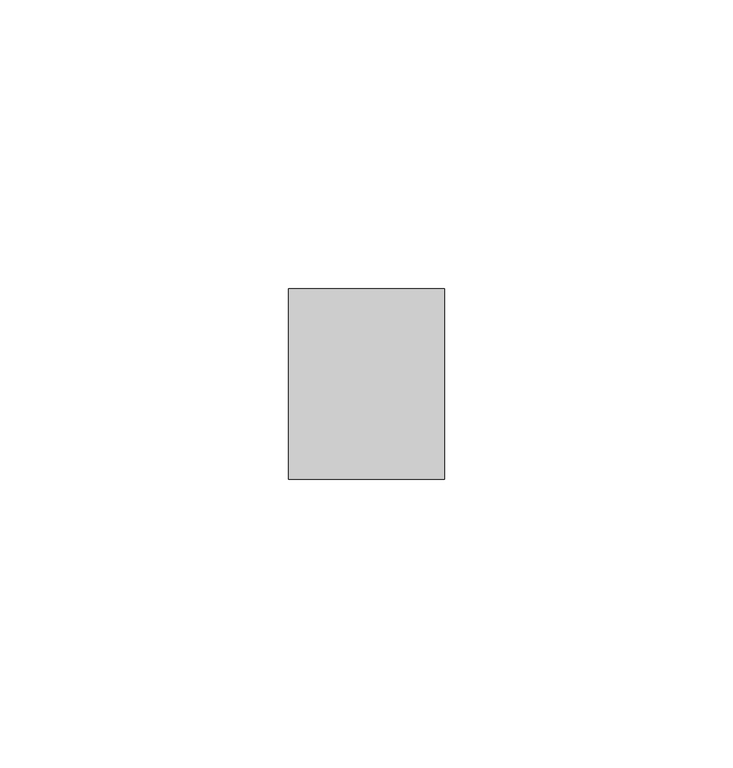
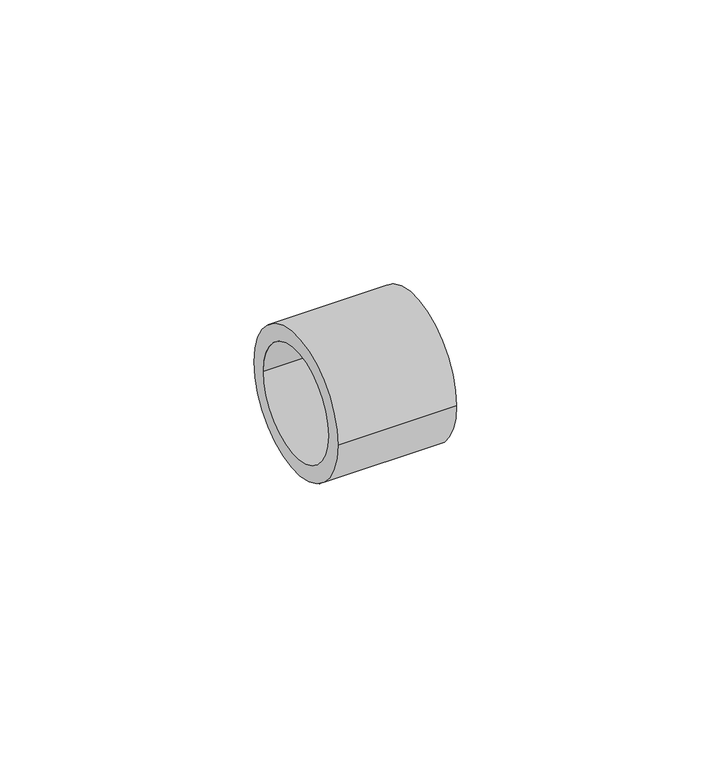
"""IFC4 building model written with IfcOpenShell, lengths in millimetres: pipe fitting geometry, REHAU_RAUTITAN_Sleeve_PX : REHAU_RAUTITAN_Sleeve_PX."""

from ifc_helpers import new_model, si_unit, point, frame, origin, origin_2d, place, context, project, spatial, circle_curve, trimmed, segment, composite_curve, outline, extrude, source, transform, mapped, element, save


def pipe_fitting_6b43a2d7(model_context):
    return source(origin(), model_context, "Body", "SweptSolid", [
        extrude(outline(composite_curve([segment(trimmed(circle_curve(origin_2d(), 16.5), [point((-16.5, 0.0))], [point((16.5, 0.0))], False, "CARTESIAN"), True, "CONTINUOUS"), segment(trimmed(circle_curve(origin_2d(), 16.5), [point((16.5, 0.0))], [point((-16.5, 0.0))], False, "CARTESIAN"), True, "CONTINUOUS")], self_intersect=False), holes=[composite_curve([segment(trimmed(circle_curve(origin_2d(), 12.8), [point((-12.8, 0.0))], [point((12.8, 0.0))], True, "CARTESIAN"), True, "CONTINUOUS"), segment(trimmed(circle_curve(origin_2d(), 12.8), [point((12.8, 0.0))], [point((-12.8, 0.0))], True, "CARTESIAN"), True, "CONTINUOUS")], self_intersect=False)]), frame((0.0, 0.0, 0.0), z_axis=(1.0, 0.0, 0.0), x_axis=(0.0, 1.0, 0.0)), (0.0, 0.0, 1.0), 27.0),
    ])


if __name__ == "__main__":
    model = new_model("IFC4")
    model_context = context("Model", 3, world=origin())
    ifc_project = project(units=[si_unit("LENGTHUNIT", "METRE", prefix="MILLI")], contexts=[model_context])
    site = spatial("IfcSite", under=ifc_project)
    building = spatial("IfcBuilding", under=site)
    placement = place(None, origin())
    pipe_fitting_shape = pipe_fitting_6b43a2d7(model_context)
    element("IfcPipeFitting", 1, ObjectType="REHAU_RAUTITAN_Sleeve_PX : REHAU_RAUTITAN_Sleeve_PX", at=placement, inside=building, context=model_context, shape_type="MappedRepresentation", body=[
        mapped(pipe_fitting_shape, transform((0.0, 0.0, 0.0), x_axis=(1.0, 0.0, 0.0), y_axis=(0.0, 1.0, 0.0), z_axis=(0.0, 0.0, 1.0))),
    ])
    save(model, "model.ifc")
